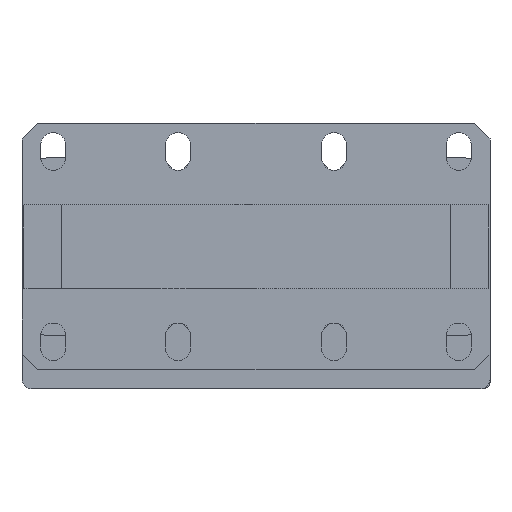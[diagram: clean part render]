
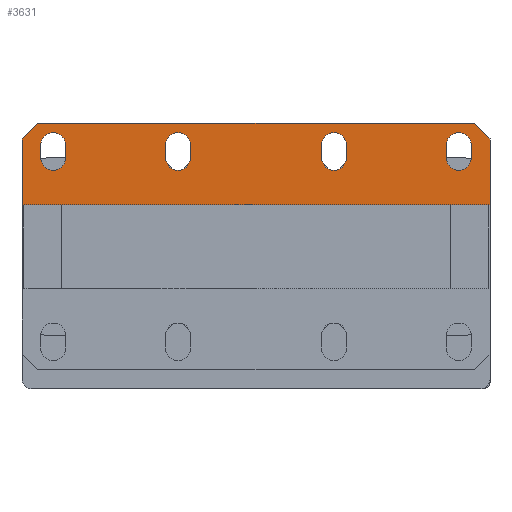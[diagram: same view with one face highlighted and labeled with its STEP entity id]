
A CAD part, front view. The second image highlights one B-rep face of the part: STEP entity #3631.
In plain terms, the highlighted planar face has unit normal (0, -1, 0).
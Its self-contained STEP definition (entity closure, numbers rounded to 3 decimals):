
#117=FACE_BOUND('',#504,.T.);
#118=FACE_BOUND('',#505,.T.);
#119=FACE_BOUND('',#506,.T.);
#120=FACE_BOUND('',#507,.T.);
#141=CIRCLE('',#3896,4.);
#142=CIRCLE('',#3897,4.);
#143=CIRCLE('',#3898,4.);
#144=CIRCLE('',#3899,4.);
#145=CIRCLE('',#3900,4.);
#146=CIRCLE('',#3901,4.);
#147=CIRCLE('',#3902,4.);
#148=CIRCLE('',#3903,4.);
#283=FACE_OUTER_BOUND('',#503,.T.);
#503=EDGE_LOOP('',(#2555,#2556,#2557,#2558,#2559,#2560));
#504=EDGE_LOOP('',(#2561,#2562,#2563,#2564));
#505=EDGE_LOOP('',(#2565,#2566,#2567,#2568));
#506=EDGE_LOOP('',(#2569,#2570,#2571,#2572));
#507=EDGE_LOOP('',(#2573,#2574,#2575,#2576));
#755=LINE('',#5439,#1161);
#759=LINE('',#5447,#1165);
#764=LINE('',#5457,#1170);
#765=LINE('',#5459,#1171);
#766=LINE('',#5461,#1172);
#767=LINE('',#5462,#1173);
#768=LINE('',#5465,#1174);
#769=LINE('',#5469,#1175);
#770=LINE('',#5475,#1176);
#771=LINE('',#5478,#1177);
#772=LINE('',#5481,#1178);
#773=LINE('',#5485,#1179);
#774=LINE('',#5491,#1180);
#775=LINE('',#5494,#1181);
#1161=VECTOR('',#4343,10.);
#1165=VECTOR('',#4349,10.);
#1170=VECTOR('',#4356,10.);
#1171=VECTOR('',#4357,10.);
#1172=VECTOR('',#4358,10.);
#1173=VECTOR('',#4359,10.);
#1174=VECTOR('',#4360,10.);
#1175=VECTOR('',#4363,10.);
#1176=VECTOR('',#4368,10.);
#1177=VECTOR('',#4371,10.);
#1178=VECTOR('',#4372,10.);
#1179=VECTOR('',#4375,10.);
#1180=VECTOR('',#4380,10.);
#1181=VECTOR('',#4383,10.);
#1557=VERTEX_POINT('',#5437);
#1558=VERTEX_POINT('',#5438);
#1561=VERTEX_POINT('',#5446);
#1565=VERTEX_POINT('',#5456);
#1566=VERTEX_POINT('',#5458);
#1567=VERTEX_POINT('',#5460);
#1568=VERTEX_POINT('',#5463);
#1569=VERTEX_POINT('',#5464);
#1570=VERTEX_POINT('',#5466);
#1571=VERTEX_POINT('',#5468);
#1572=VERTEX_POINT('',#5471);
#1573=VERTEX_POINT('',#5472);
#1574=VERTEX_POINT('',#5474);
#1575=VERTEX_POINT('',#5476);
#1576=VERTEX_POINT('',#5479);
#1577=VERTEX_POINT('',#5480);
#1578=VERTEX_POINT('',#5482);
#1579=VERTEX_POINT('',#5484);
#1580=VERTEX_POINT('',#5487);
#1581=VERTEX_POINT('',#5488);
#1582=VERTEX_POINT('',#5490);
#1583=VERTEX_POINT('',#5492);
#1933=EDGE_CURVE('',#1557,#1558,#755,.T.);
#1937=EDGE_CURVE('',#1558,#1561,#759,.T.);
#1942=EDGE_CURVE('',#1565,#1557,#764,.T.);
#1943=EDGE_CURVE('',#1566,#1565,#765,.T.);
#1944=EDGE_CURVE('',#1567,#1566,#766,.T.);
#1945=EDGE_CURVE('',#1567,#1561,#767,.T.);
#1946=EDGE_CURVE('',#1568,#1569,#768,.T.);
#1947=EDGE_CURVE('',#1569,#1570,#141,.T.);
#1948=EDGE_CURVE('',#1570,#1571,#769,.T.);
#1949=EDGE_CURVE('',#1571,#1568,#142,.T.);
#1950=EDGE_CURVE('',#1572,#1573,#143,.T.);
#1951=EDGE_CURVE('',#1573,#1574,#770,.T.);
#1952=EDGE_CURVE('',#1574,#1575,#144,.T.);
#1953=EDGE_CURVE('',#1575,#1572,#771,.T.);
#1954=EDGE_CURVE('',#1576,#1577,#772,.T.);
#1955=EDGE_CURVE('',#1577,#1578,#145,.T.);
#1956=EDGE_CURVE('',#1578,#1579,#773,.T.);
#1957=EDGE_CURVE('',#1579,#1576,#146,.T.);
#1958=EDGE_CURVE('',#1580,#1581,#147,.T.);
#1959=EDGE_CURVE('',#1581,#1582,#774,.T.);
#1960=EDGE_CURVE('',#1582,#1583,#148,.T.);
#1961=EDGE_CURVE('',#1583,#1580,#775,.T.);
#2555=ORIENTED_EDGE('',*,*,#1933,.F.);
#2556=ORIENTED_EDGE('',*,*,#1942,.F.);
#2557=ORIENTED_EDGE('',*,*,#1943,.F.);
#2558=ORIENTED_EDGE('',*,*,#1944,.F.);
#2559=ORIENTED_EDGE('',*,*,#1945,.T.);
#2560=ORIENTED_EDGE('',*,*,#1937,.F.);
#2561=ORIENTED_EDGE('',*,*,#1946,.T.);
#2562=ORIENTED_EDGE('',*,*,#1947,.T.);
#2563=ORIENTED_EDGE('',*,*,#1948,.T.);
#2564=ORIENTED_EDGE('',*,*,#1949,.T.);
#2565=ORIENTED_EDGE('',*,*,#1950,.T.);
#2566=ORIENTED_EDGE('',*,*,#1951,.T.);
#2567=ORIENTED_EDGE('',*,*,#1952,.T.);
#2568=ORIENTED_EDGE('',*,*,#1953,.T.);
#2569=ORIENTED_EDGE('',*,*,#1954,.T.);
#2570=ORIENTED_EDGE('',*,*,#1955,.T.);
#2571=ORIENTED_EDGE('',*,*,#1956,.T.);
#2572=ORIENTED_EDGE('',*,*,#1957,.T.);
#2573=ORIENTED_EDGE('',*,*,#1958,.T.);
#2574=ORIENTED_EDGE('',*,*,#1959,.T.);
#2575=ORIENTED_EDGE('',*,*,#1960,.T.);
#2576=ORIENTED_EDGE('',*,*,#1961,.T.);
#3479=PLANE('',#3895);
#3631=ADVANCED_FACE('',(#283,#117,#118,#119,#120),#3479,.T.);
#3895=AXIS2_PLACEMENT_3D('',#5455,#4354,#4355);
#3896=AXIS2_PLACEMENT_3D('',#5467,#4361,#4362);
#3897=AXIS2_PLACEMENT_3D('',#5470,#4364,#4365);
#3898=AXIS2_PLACEMENT_3D('',#5473,#4366,#4367);
#3899=AXIS2_PLACEMENT_3D('',#5477,#4369,#4370);
#3900=AXIS2_PLACEMENT_3D('',#5483,#4373,#4374);
#3901=AXIS2_PLACEMENT_3D('',#5486,#4376,#4377);
#3902=AXIS2_PLACEMENT_3D('',#5489,#4378,#4379);
#3903=AXIS2_PLACEMENT_3D('',#5493,#4381,#4382);
#4343=DIRECTION('',(0.707,0.,-0.707));
#4349=DIRECTION('',(0.,0.,-1.));
#4354=DIRECTION('center_axis',(0.,-1.,0.));
#4355=DIRECTION('ref_axis',(0.,0.,-1.));
#4356=DIRECTION('',(1.,0.,0.));
#4357=DIRECTION('',(0.707,0.,0.707));
#4358=DIRECTION('',(0.,0.,1.));
#4359=DIRECTION('',(1.,0.,0.));
#4360=DIRECTION('',(0.,0.,-1.));
#4361=DIRECTION('center_axis',(0.,1.,0.));
#4362=DIRECTION('ref_axis',(-1.,0.,0.));
#4363=DIRECTION('',(0.,0.,1.));
#4364=DIRECTION('center_axis',(0.,1.,0.));
#4365=DIRECTION('ref_axis',(1.,0.,0.));
#4366=DIRECTION('center_axis',(0.,1.,0.));
#4367=DIRECTION('ref_axis',(1.,0.,0.));
#4368=DIRECTION('',(0.,0.,-1.));
#4369=DIRECTION('center_axis',(0.,1.,0.));
#4370=DIRECTION('ref_axis',(-1.,0.,0.));
#4371=DIRECTION('',(0.,0.,1.));
#4372=DIRECTION('',(0.,0.,-1.));
#4373=DIRECTION('center_axis',(0.,1.,0.));
#4374=DIRECTION('ref_axis',(-1.,0.,0.));
#4375=DIRECTION('',(0.,0.,1.));
#4376=DIRECTION('center_axis',(0.,1.,0.));
#4377=DIRECTION('ref_axis',(1.,0.,0.));
#4378=DIRECTION('center_axis',(0.,1.,0.));
#4379=DIRECTION('ref_axis',(1.,0.,0.));
#4380=DIRECTION('',(0.,0.,-1.));
#4381=DIRECTION('center_axis',(0.,1.,0.));
#4382=DIRECTION('ref_axis',(-1.,0.,0.));
#4383=DIRECTION('',(0.,0.,1.));
#5437=CARTESIAN_POINT('',(70.,0.,39.5));
#5438=CARTESIAN_POINT('',(75.,0.,34.5));
#5439=CARTESIAN_POINT('',(53.75,0.,55.75));
#5446=CARTESIAN_POINT('',(75.,0.,13.5));
#5447=CARTESIAN_POINT('',(75.,0.,39.5));
#5455=CARTESIAN_POINT('Origin',(0.,0.,39.5));
#5456=CARTESIAN_POINT('',(-70.,0.,39.5));
#5457=CARTESIAN_POINT('',(0.,0.,39.5));
#5458=CARTESIAN_POINT('',(-75.,0.,34.5));
#5459=CARTESIAN_POINT('',(-53.75,0.,55.75));
#5460=CARTESIAN_POINT('',(-75.,0.,13.5));
#5461=CARTESIAN_POINT('',(-75.,0.,39.5));
#5462=CARTESIAN_POINT('',(0.,0.,13.5));
#5463=CARTESIAN_POINT('',(-61.,0.,32.5));
#5464=CARTESIAN_POINT('',(-61.,0.,28.5));
#5465=CARTESIAN_POINT('',(-61.,0.,36.));
#5466=CARTESIAN_POINT('',(-69.,0.,28.5));
#5467=CARTESIAN_POINT('Origin',(-65.,0.,28.5));
#5468=CARTESIAN_POINT('',(-69.,0.,32.5));
#5469=CARTESIAN_POINT('',(-69.,0.,34.));
#5470=CARTESIAN_POINT('Origin',(-65.,0.,32.5));
#5471=CARTESIAN_POINT('',(21.,0.,32.5));
#5472=CARTESIAN_POINT('',(29.,0.,32.5));
#5473=CARTESIAN_POINT('Origin',(25.,0.,32.5));
#5474=CARTESIAN_POINT('',(29.,0.,28.5));
#5475=CARTESIAN_POINT('',(29.,0.,36.));
#5476=CARTESIAN_POINT('',(21.,0.,28.5));
#5477=CARTESIAN_POINT('Origin',(25.,0.,28.5));
#5478=CARTESIAN_POINT('',(21.,0.,34.));
#5479=CARTESIAN_POINT('',(-21.,0.,32.5));
#5480=CARTESIAN_POINT('',(-21.,0.,28.5));
#5481=CARTESIAN_POINT('',(-21.,0.,36.));
#5482=CARTESIAN_POINT('',(-29.,0.,28.5));
#5483=CARTESIAN_POINT('Origin',(-25.,0.,28.5));
#5484=CARTESIAN_POINT('',(-29.,0.,32.5));
#5485=CARTESIAN_POINT('',(-29.,0.,34.));
#5486=CARTESIAN_POINT('Origin',(-25.,0.,32.5));
#5487=CARTESIAN_POINT('',(61.,0.,32.5));
#5488=CARTESIAN_POINT('',(69.,0.,32.5));
#5489=CARTESIAN_POINT('Origin',(65.,0.,32.5));
#5490=CARTESIAN_POINT('',(69.,0.,28.5));
#5491=CARTESIAN_POINT('',(69.,0.,36.));
#5492=CARTESIAN_POINT('',(61.,0.,28.5));
#5493=CARTESIAN_POINT('Origin',(65.,0.,28.5));
#5494=CARTESIAN_POINT('',(61.,0.,34.));
